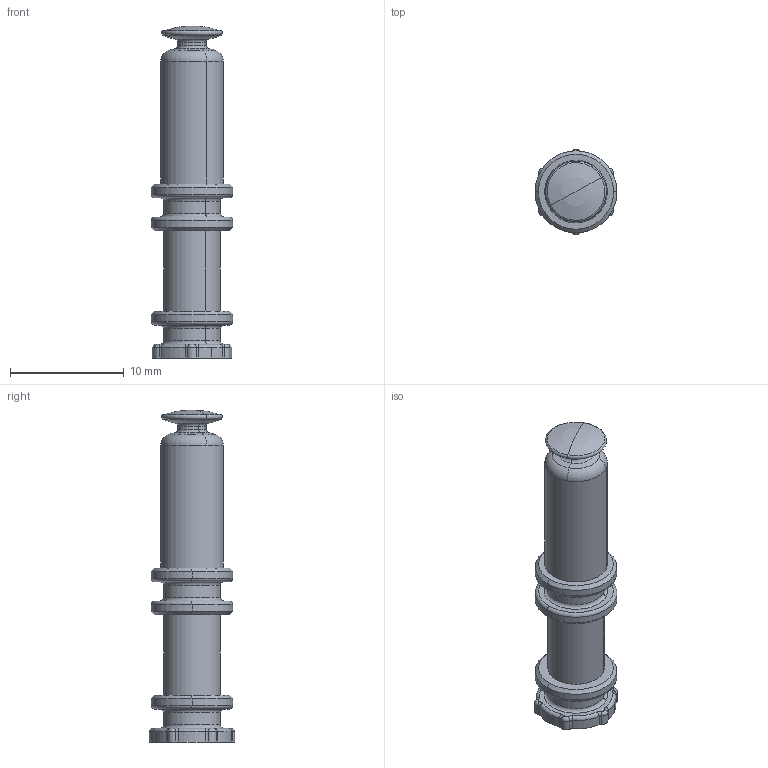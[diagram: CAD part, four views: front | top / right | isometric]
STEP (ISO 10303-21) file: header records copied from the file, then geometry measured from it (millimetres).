
FILE_DESCRIPTION(('CATIA V5 STEP Exchange'),'2;1');
FILE_NAME('G:\够快云库\系统集成开发部\1.部门成员\孙国\座椅速降阀\R20\翘板\STP\BPC0010217 翘板速降阀芯.stp','2021-10-22T08:10:57+00:00',('none'),('none'),'CATIA Version 5 Release 20 GA (IN-10)','CATIA V5 STEP AP214','none');
FILE_SCHEMA(('AUTOMOTIVE_DESIGN { 1 0 10303 214 1 1 1 1 }'));
Length unit declared in the file: millimetre
Products named in the file (1): BPC0010217-翘板速降阀芯
Bounding box: 7.2 x 7.5 x 29.2 mm (x, y, z)
Volume: 696.7 mm3; surface area: 688.9 mm2
Topology: 1 solids, 1 shells, 110 faces, 248 edges, 145 vertices
Faces by surface type: torus 52, cylinder 42, plane 8, cone 6, sphere 2
Entity records: 2949 total; most frequent: CARTESIAN_POINT 629, ORIENTED_EDGE 492, DIRECTION 409, AXIS2_PLACEMENT_3D 274, EDGE_CURVE 246, CIRCLE 185, VERTEX_POINT 145, EDGE_LOOP 117
